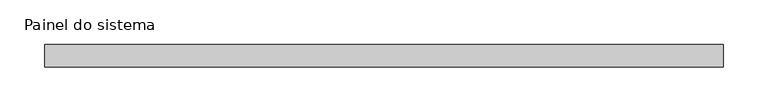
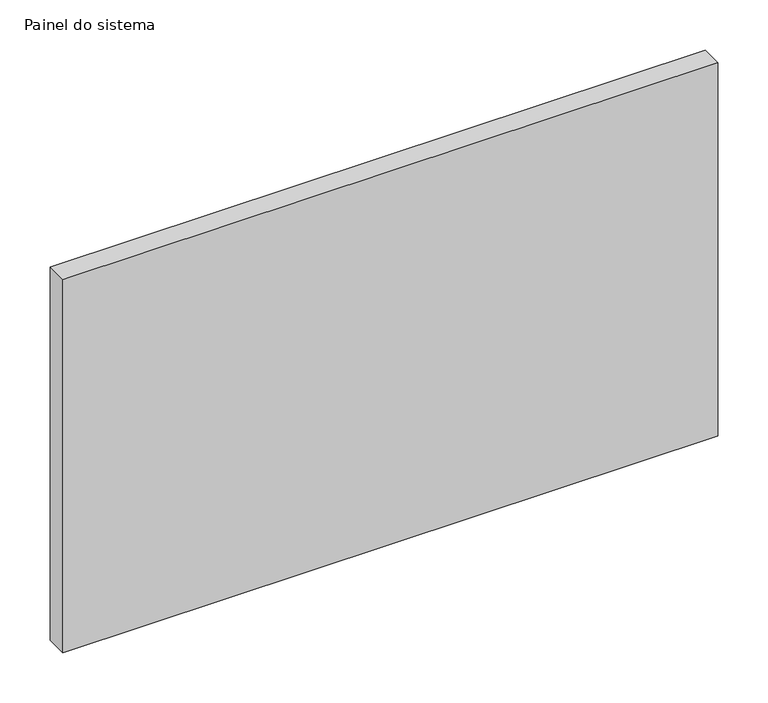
"""IFC4 building model written with IfcOpenShell, lengths in millimetres: plate geometry, Painel do sistema : Envidraçado."""

from ifc_helpers import new_model, si_unit, origin, origin_with_axes, place, context, project, spatial, polyline, outline, extrude, source, transform, mapped, element, save


def painel_do_sistema_0c965b44(model_context):
    return source(origin(), model_context, "Body", "SweptSolid", [
        extrude(outline(polyline([(377.5, 24.5), (-377.5, 24.5), (-377.5, 49.5), (377.5, 49.5), (377.5, 24.5)])), origin_with_axes(), (0.0, 0.0, 1.0), 455.0),
    ])


if __name__ == "__main__":
    model = new_model("IFC4")
    model_context = context("Model", 3, world=origin())
    ifc_project = project(units=[si_unit("LENGTHUNIT", "METRE", prefix="MILLI")], contexts=[model_context])
    site = spatial("IfcSite", under=ifc_project)
    building = spatial("IfcBuilding", under=site)
    placement = place(None, origin())
    painel_do_sistema_shape = painel_do_sistema_0c965b44(model_context)
    element("IfcPlate", 1, ObjectType="Painel do sistema : Envidraçado", at=placement, inside=building, context=model_context, shape_type="MappedRepresentation", body=[
        mapped(painel_do_sistema_shape, transform((0.0, 0.0, 0.0), x_axis=(1.0, 0.0, 0.0), y_axis=(0.0, 1.0, 0.0), z_axis=(0.0, 0.0, 1.0))),
    ])
    save(model, "model.ifc")
